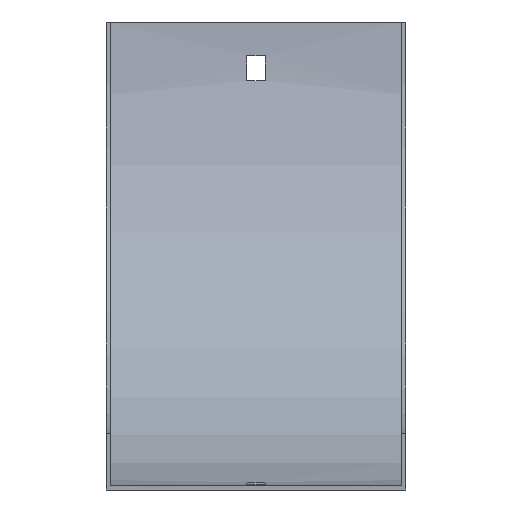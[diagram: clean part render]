
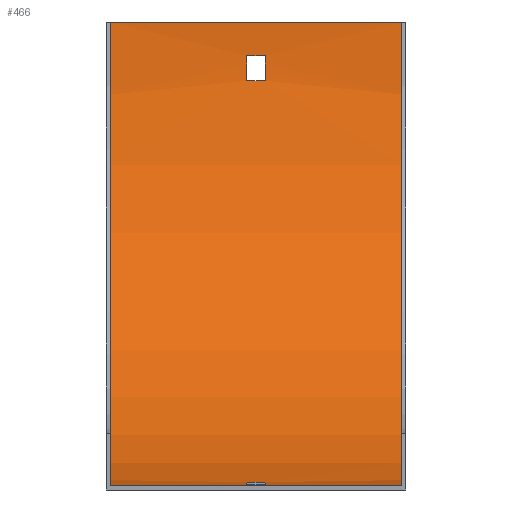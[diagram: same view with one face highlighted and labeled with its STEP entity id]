
A CAD part, front view. The second image highlights one B-rep face of the part: STEP entity #466.
In plain terms, the highlighted cylindrical face has radius 165.5 mm (diameter 331 mm), a partial arc.
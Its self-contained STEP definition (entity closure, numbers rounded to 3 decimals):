
#2 = CARTESIAN_POINT ( 'NONE',  ( -3.25, -167., 0. ) ) ;
#3 = CARTESIAN_POINT ( 'NONE',  ( 52., -1.5, 0. ) ) ;
#8 = EDGE_CURVE ( 'NONE', #598, #541, #420, .T. ) ;
#10 = AXIS2_PLACEMENT_3D ( 'NONE', #484, #76, #258 ) ;
#18 = CARTESIAN_POINT ( 'NONE',  ( 52., -167., 0. ) ) ;
#22 = CARTESIAN_POINT ( 'NONE',  ( 53.5, -1.936, -12. ) ) ;
#27 = ORIENTED_EDGE ( 'NONE', *, *, #441, .T. ) ;
#35 = ORIENTED_EDGE ( 'NONE', *, *, #70, .F. ) ;
#42 = CIRCLE ( 'NONE', #177, 165.5 ) ;
#59 = CARTESIAN_POINT ( 'NONE',  ( 52., -167., -165.5 ) ) ;
#64 = DIRECTION ( 'NONE',  ( 0., 0., 1. ) ) ;
#67 = AXIS2_PLACEMENT_3D ( 'NONE', #427, #176, #130 ) ;
#70 = EDGE_CURVE ( 'NONE', #370, #461, #128, .T. ) ;
#76 = DIRECTION ( 'NONE',  ( -1., 0., 0. ) ) ;
#77 = DIRECTION ( 'NONE',  ( -1., 0., 0. ) ) ;
#78 = EDGE_CURVE ( 'NONE', #461, #429, #364, .T. ) ;
#87 = ORIENTED_EDGE ( 'NONE', *, *, #493, .F. ) ;
#93 = CARTESIAN_POINT ( 'NONE',  ( 3.25, -2.838, -21. ) ) ;
#100 = EDGE_CURVE ( 'NONE', #357, #541, #496, .T. ) ;
#109 = ORIENTED_EDGE ( 'NONE', *, *, #8, .T. ) ;
#112 = LINE ( 'NONE', #59, #451 ) ;
#116 = DIRECTION ( 'NONE',  ( -1., 0., 0. ) ) ;
#119 = CIRCLE ( 'NONE', #67, 165.5 ) ;
#122 = CARTESIAN_POINT ( 'NONE',  ( -3.25, -146., -164.162 ) ) ;
#128 = LINE ( 'NONE', #22, #345 ) ;
#130 = DIRECTION ( 'NONE',  ( 0., 0., -1. ) ) ;
#137 = AXIS2_PLACEMENT_3D ( 'NONE', #340, #174, #584 ) ;
#141 = EDGE_CURVE ( 'NONE', #429, #352, #293, .T. ) ;
#142 = ORIENTED_EDGE ( 'NONE', *, *, #141, .F. ) ;
#151 = DIRECTION ( 'NONE',  ( -1., 0., 0. ) ) ;
#154 = DIRECTION ( 'NONE',  ( 1., 0., 0. ) ) ;
#157 = EDGE_CURVE ( 'NONE', #318, #598, #42, .T. ) ;
#172 = EDGE_CURVE ( 'NONE', #213, #567, #383, .T. ) ;
#174 = DIRECTION ( 'NONE',  ( 1., 0., 0. ) ) ;
#176 = DIRECTION ( 'NONE',  ( 1., 0., 0. ) ) ;
#177 = AXIS2_PLACEMENT_3D ( 'NONE', #18, #487, #394 ) ;
#192 = EDGE_LOOP ( 'NONE', ( #230, #326, #245, #27 ) ) ;
#194 = LINE ( 'NONE', #365, #320 ) ;
#197 = CARTESIAN_POINT ( 'NONE',  ( 3.25, -1.936, -12. ) ) ;
#199 = CIRCLE ( 'NONE', #532, 165.5 ) ;
#213 = VERTEX_POINT ( 'NONE', #122 ) ;
#217 = CYLINDRICAL_SURFACE ( 'NONE', #361, 165.5 ) ;
#220 = CARTESIAN_POINT ( 'NONE',  ( 53.5, -167., 0. ) ) ;
#230 = ORIENTED_EDGE ( 'NONE', *, *, #601, .T. ) ;
#233 = CARTESIAN_POINT ( 'NONE',  ( 3.25, -146., -164.162 ) ) ;
#241 = ORIENTED_EDGE ( 'NONE', *, *, #157, .T. ) ;
#245 = ORIENTED_EDGE ( 'NONE', *, *, #172, .T. ) ;
#253 = DIRECTION ( 'NONE',  ( 1., 0., 0. ) ) ;
#255 = ORIENTED_EDGE ( 'NONE', *, *, #260, .F. ) ;
#256 = DIRECTION ( 'NONE',  ( 0., 0., 1. ) ) ;
#258 = DIRECTION ( 'NONE',  ( 0., 0., 1. ) ) ;
#259 = CARTESIAN_POINT ( 'NONE',  ( -3.25, -1.936, -12. ) ) ;
#260 = EDGE_CURVE ( 'NONE', #318, #357, #112, .T. ) ;
#269 = DIRECTION ( 'NONE',  ( 1., 0., 0. ) ) ;
#270 = CARTESIAN_POINT ( 'NONE',  ( -52., -1.5, 0. ) ) ;
#290 = CARTESIAN_POINT ( 'NONE',  ( 52., -1.5, 0. ) ) ;
#293 = LINE ( 'NONE', #488, #350 ) ;
#306 = CARTESIAN_POINT ( 'NONE',  ( 3.25, -167., 0. ) ) ;
#310 = CARTESIAN_POINT ( 'NONE',  ( 3.25, -155., -165.064 ) ) ;
#317 = ORIENTED_EDGE ( 'NONE', *, *, #100, .F. ) ;
#318 = VERTEX_POINT ( 'NONE', #565 ) ;
#319 = EDGE_CURVE ( 'NONE', #485, #213, #559, .T. ) ;
#320 = VECTOR ( 'NONE', #116, 1000. ) ;
#322 = VECTOR ( 'NONE', #154, 1000. ) ;
#326 = ORIENTED_EDGE ( 'NONE', *, *, #319, .T. ) ;
#340 = CARTESIAN_POINT ( 'NONE',  ( -52., -167., 0. ) ) ;
#345 = VECTOR ( 'NONE', #385, 1000. ) ;
#350 = VECTOR ( 'NONE', #253, 1000. ) ;
#352 = VERTEX_POINT ( 'NONE', #93 ) ;
#353 = AXIS2_PLACEMENT_3D ( 'NONE', #2, #269, #467 ) ;
#357 = VERTEX_POINT ( 'NONE', #369 ) ;
#361 = AXIS2_PLACEMENT_3D ( 'NONE', #220, #151, #64 ) ;
#364 = CIRCLE ( 'NONE', #10, 165.5 ) ;
#365 = CARTESIAN_POINT ( 'NONE',  ( 53.5, -155., -165.064 ) ) ;
#369 = CARTESIAN_POINT ( 'NONE',  ( -52., -167., -165.5 ) ) ;
#370 = VERTEX_POINT ( 'NONE', #197 ) ;
#383 = LINE ( 'NONE', #436, #322 ) ;
#385 = DIRECTION ( 'NONE',  ( -1., 0., 0. ) ) ;
#394 = DIRECTION ( 'NONE',  ( 0., 0., 1. ) ) ;
#401 = CARTESIAN_POINT ( 'NONE',  ( -3.25, -155., -165.064 ) ) ;
#420 = LINE ( 'NONE', #3, #587 ) ;
#424 = FACE_BOUND ( 'NONE', #471, .T. ) ;
#427 = CARTESIAN_POINT ( 'NONE',  ( 3.25, -167., 0. ) ) ;
#429 = VERTEX_POINT ( 'NONE', #482 ) ;
#436 = CARTESIAN_POINT ( 'NONE',  ( 53.5, -146., -164.162 ) ) ;
#441 = EDGE_CURVE ( 'NONE', #567, #498, #199, .T. ) ;
#445 = FACE_OUTER_BOUND ( 'NONE', #505, .T. ) ;
#451 = VECTOR ( 'NONE', #576, 1000. ) ;
#461 = VERTEX_POINT ( 'NONE', #259 ) ;
#466 = ADVANCED_FACE ( 'NONE', ( #424, #445, #586 ), #217, .F. ) ;
#467 = DIRECTION ( 'NONE',  ( 0., 0., -1. ) ) ;
#471 = EDGE_LOOP ( 'NONE', ( #501, #35, #87, #142 ) ) ;
#482 = CARTESIAN_POINT ( 'NONE',  ( -3.25, -2.838, -21. ) ) ;
#484 = CARTESIAN_POINT ( 'NONE',  ( -3.25, -167., 0. ) ) ;
#485 = VERTEX_POINT ( 'NONE', #401 ) ;
#487 = DIRECTION ( 'NONE',  ( 1., 0., 0. ) ) ;
#488 = CARTESIAN_POINT ( 'NONE',  ( 53.5, -2.838, -21. ) ) ;
#493 = EDGE_CURVE ( 'NONE', #352, #370, #119, .T. ) ;
#496 = CIRCLE ( 'NONE', #137, 165.5 ) ;
#498 = VERTEX_POINT ( 'NONE', #310 ) ;
#501 = ORIENTED_EDGE ( 'NONE', *, *, #78, .F. ) ;
#505 = EDGE_LOOP ( 'NONE', ( #317, #255, #241, #109 ) ) ;
#518 = DIRECTION ( 'NONE',  ( -1., 0., 0. ) ) ;
#532 = AXIS2_PLACEMENT_3D ( 'NONE', #306, #77, #256 ) ;
#541 = VERTEX_POINT ( 'NONE', #270 ) ;
#559 = CIRCLE ( 'NONE', #353, 165.5 ) ;
#565 = CARTESIAN_POINT ( 'NONE',  ( 52., -167., -165.5 ) ) ;
#567 = VERTEX_POINT ( 'NONE', #233 ) ;
#576 = DIRECTION ( 'NONE',  ( -1., 0., 0. ) ) ;
#584 = DIRECTION ( 'NONE',  ( 0., 0., 1. ) ) ;
#586 = FACE_BOUND ( 'NONE', #192, .T. ) ;
#587 = VECTOR ( 'NONE', #518, 1000. ) ;
#598 = VERTEX_POINT ( 'NONE', #290 ) ;
#601 = EDGE_CURVE ( 'NONE', #498, #485, #194, .T. ) ;
